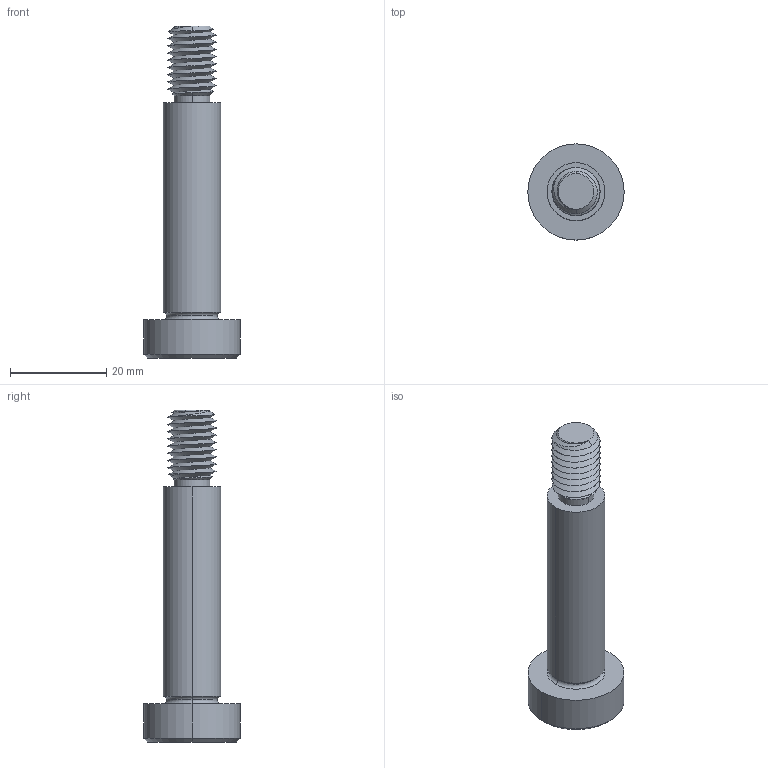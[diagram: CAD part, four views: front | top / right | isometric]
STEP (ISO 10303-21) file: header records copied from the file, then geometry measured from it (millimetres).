
FILE_DESCRIPTION (( 'STEP AP203' ), '1' );
FILE_NAME ('P0130.120-045-B2.step', '2021-11-09T22:07:01', ( '' ), ( '' ), 'SwSTEP 2.0', 'SolidWorks 2019', '' );
FILE_SCHEMA (( 'CONFIG_CONTROL_DESIGN' ));
Length unit declared in the file: millimetre
Products named in the file (1): P0130.120-045-B2
Bounding box: 20 x 20 x 69 mm (x, y, z)
Volume: 8265.7 mm3; surface area: 3753.7 mm2
Topology: 1 solids, 1 shells, 60 faces, 142 edges, 85 vertices
Faces by surface type: cylinder 23, plane 16, cone 15, torus 4, bspline 2
Entity records: 3534 total; most frequent: CARTESIAN_POINT 2187, ORIENTED_EDGE 280, DIRECTION 247, EDGE_CURVE 140, AXIS2_PLACEMENT_3D 99, VERTEX_POINT 85, EDGE_LOOP 63, FACE_OUTER_BOUND 60
